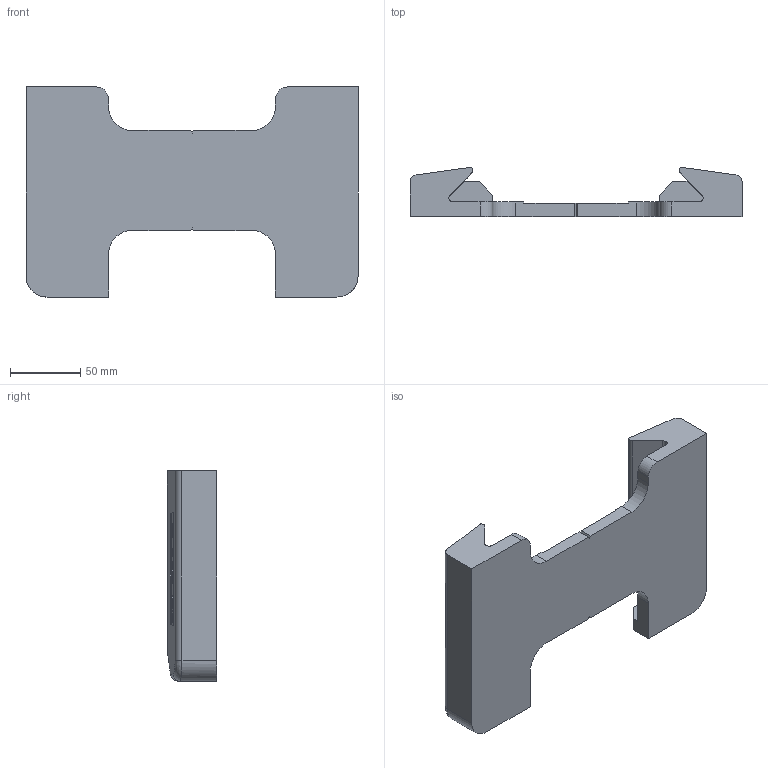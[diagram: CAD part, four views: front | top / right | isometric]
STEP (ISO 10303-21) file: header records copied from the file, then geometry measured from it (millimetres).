
FILE_DESCRIPTION (( 'STEP AP203' ), '1' );
FILE_NAME ('DF-31-45.STEP', '2020-11-30T13:29:19', ( '' ), ( '' ), 'SwSTEP 2.0', 'SolidWorks 2019', '' );
FILE_SCHEMA (( 'CONFIG_CONTROL_DESIGN' ));
Length unit declared in the file: millimetre
Products named in the file (1): DF-31-45
Bounding box: 237 x 35 x 150 mm (x, y, z)
Volume: 492079.3 mm3; surface area: 84728.3 mm2
Topology: 1 solids, 1 shells, 244 faces, 662 edges, 440 vertices
Faces by surface type: plane 176, bspline 46, cylinder 22
Entity records: 9885 total; most frequent: CARTESIAN_POINT 3981, ORIENTED_EDGE 1324, DIRECTION 984, EDGE_CURVE 662, LINE 522, VECTOR 522, VERTEX_POINT 440, EDGE_LOOP 264
